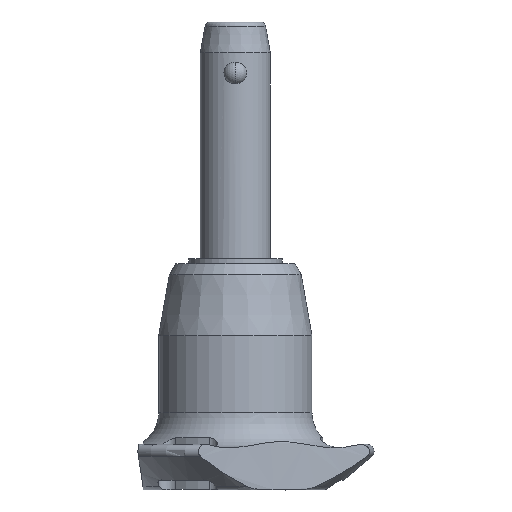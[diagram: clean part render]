
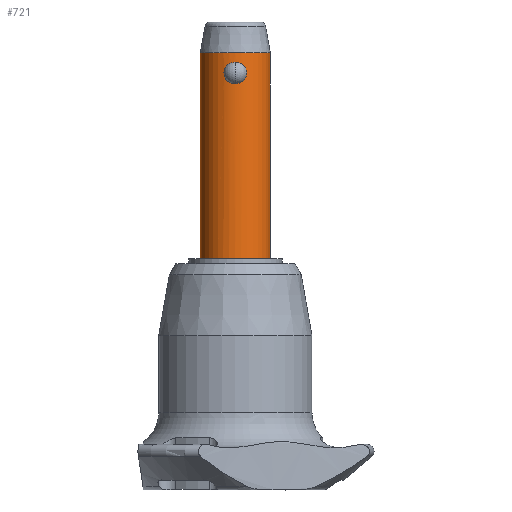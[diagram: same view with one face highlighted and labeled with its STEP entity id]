
A CAD part, front view. The second image highlights one B-rep face of the part: STEP entity #721.
In plain terms, the highlighted cylindrical face has radius 6 mm (diameter 12 mm), a partial arc.
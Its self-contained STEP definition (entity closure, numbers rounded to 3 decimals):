
#10 = CARTESIAN_POINT ( 'NONE',  ( 6., 0., -30. ) ) ;
#18 = DIRECTION ( 'NONE',  ( 0., 0., 1. ) ) ;
#26 = EDGE_CURVE ( 'NONE', #1327, #1147, #795, .T. ) ;
#33 = VECTOR ( 'NONE', #1652, 1000. ) ;
#39 = CARTESIAN_POINT ( 'NONE',  ( -0.854, -5.94, 3.53 ) ) ;
#72 = CARTESIAN_POINT ( 'NONE',  ( 1.7, -5.755, 2.812 ) ) ;
#81 = CARTESIAN_POINT ( 'NONE',  ( -1.852, -5.707, 1.239 ) ) ;
#131 = LINE ( 'NONE', #1015, #33 ) ;
#141 = CARTESIAN_POINT ( 'NONE',  ( -6., 0., -30. ) ) ;
#228 = CARTESIAN_POINT ( 'NONE',  ( -0.967, -5.923, 0.233 ) ) ;
#238 = CARTESIAN_POINT ( 'NONE',  ( 0., -6., 3.708 ) ) ;
#251 = CARTESIAN_POINT ( 'NONE',  ( -0.252, -5.996, 3.697 ) ) ;
#262 = CARTESIAN_POINT ( 'NONE',  ( 0.25, -6., 0. ) ) ;
#287 = CARTESIAN_POINT ( 'NONE',  ( 0.498, -5.981, 3.652 ) ) ;
#294 = CARTESIAN_POINT ( 'NONE',  ( -1.9, -5.692, 2.359 ) ) ;
#308 = CARTESIAN_POINT ( 'NONE',  ( -1.541, -5.799, 3.011 ) ) ;
#317 = CARTESIAN_POINT ( 'NONE',  ( 0., -6., 0. ) ) ;
#414 = CYLINDRICAL_SURFACE ( 'NONE', #1824, 6. ) ;
#487 = CARTESIAN_POINT ( 'NONE',  ( 1.277, -5.863, 0.437 ) ) ;
#499 = CARTESIAN_POINT ( 'NONE',  ( 1.89, -5.695, 2.349 ) ) ;
#705 = EDGE_CURVE ( 'NONE', #1835, #2433, #1633, .T. ) ;
#711 = CARTESIAN_POINT ( 'NONE',  ( 1.178, -5.884, 0.362 ) ) ;
#721 = ADVANCED_FACE ( 'NONE', ( #1507, #2402 ), #414, .T. ) ;
#795 = B_SPLINE_CURVE_WITH_KNOTS ( 'NONE', 3,
 ( #238, #1330, #251, #1109, #2019, #39, #1575, #2045, #2290, #1377, #308, #1618, #1604, #294, #2516, #1390, #1157, #2059, #81, #1122, #1804, #2693, #1580, #228, #2845, #2194, #2863, #2653 ),
 .UNSPECIFIED., .F., .F.,
 ( 4, 2, 2, 2, 2, 2, 2, 2, 2, 2, 2, 2, 2, 4 ),
 ( 0., 0., 0.001, 0.001, 0.002, 0.002, 0.002, 0.003, 0.003, 0.004, 0.005, 0.005, 0.005, 0.006 ),
 .UNSPECIFIED. ) ;
#834 = DIRECTION ( 'NONE',  ( 1., 0., 0. ) ) ;
#887 = DIRECTION ( 'NONE',  ( 0., 0., -1. ) ) ;
#902 = CARTESIAN_POINT ( 'NONE',  ( 1.955, -5.673, 1.979 ) ) ;
#913 = CARTESIAN_POINT ( 'NONE',  ( 1.178, -5.884, 3.346 ) ) ;
#924 = CARTESIAN_POINT ( 'NONE',  ( 1.901, -5.692, 1.35 ) ) ;
#942 = CARTESIAN_POINT ( 'NONE',  ( 1.279, -5.863, 3.27 ) ) ;
#981 = EDGE_CURVE ( 'NONE', #2433, #1909, #1895, .T. ) ;
#1015 = CARTESIAN_POINT ( 'NONE',  ( 6., 0., -30. ) ) ;
#1028 = EDGE_CURVE ( 'NONE', #1431, #1909, #2615, .T. ) ;
#1060 = AXIS2_PLACEMENT_3D ( 'NONE', #2251, #2206, #2422 ) ;
#1106 = CARTESIAN_POINT ( 'NONE',  ( 0., 0., -30. ) ) ;
#1109 = CARTESIAN_POINT ( 'NONE',  ( -0.498, -5.981, 3.652 ) ) ;
#1122 = CARTESIAN_POINT ( 'NONE',  ( -1.7, -5.755, 0.895 ) ) ;
#1125 = CARTESIAN_POINT ( 'NONE',  ( 1.851, -5.708, 2.47 ) ) ;
#1145 = ORIENTED_EDGE ( 'NONE', *, *, #705, .F. ) ;
#1147 = VERTEX_POINT ( 'NONE', #1781 ) ;
#1157 = CARTESIAN_POINT ( 'NONE',  ( -1.942, -5.677, 1.604 ) ) ;
#1179 = ORIENTED_EDGE ( 'NONE', *, *, #1028, .T. ) ;
#1181 = CARTESIAN_POINT ( 'NONE',  ( 0.62, -5.969, 3.619 ) ) ;
#1215 = B_SPLINE_CURVE_WITH_KNOTS ( 'NONE', 3,
 ( #317, #262, #2479, #2710, #2683, #711, #487, #1623, #2259, #1399, #2496, #924, #1568, #902, #1357, #499, #1125, #72, #2027, #942, #913, #1805, #1371, #1181, #287, #2694, #2037, #1818 ),
 .UNSPECIFIED., .F., .F.,
 ( 4, 2, 2, 2, 2, 2, 2, 2, 2, 2, 2, 2, 2, 4 ),
 ( 0.006, 0.007, 0.007, 0.008, 0.008, 0.008, 0.009, 0.009, 0.01, 0.011, 0.011, 0.011, 0.012, 0.012 ),
 .UNSPECIFIED. ) ;
#1282 = CARTESIAN_POINT ( 'NONE',  ( 0., 0., -30. ) ) ;
#1327 = VERTEX_POINT ( 'NONE', #1627 ) ;
#1330 = CARTESIAN_POINT ( 'NONE',  ( -0.127, -6., 3.708 ) ) ;
#1357 = CARTESIAN_POINT ( 'NONE',  ( 1.942, -5.677, 2.103 ) ) ;
#1371 = CARTESIAN_POINT ( 'NONE',  ( 0.855, -5.94, 3.53 ) ) ;
#1377 = CARTESIAN_POINT ( 'NONE',  ( -1.46, -5.821, 3.103 ) ) ;
#1390 = CARTESIAN_POINT ( 'NONE',  ( -1.955, -5.673, 1.731 ) ) ;
#1399 = CARTESIAN_POINT ( 'NONE',  ( 1.687, -5.758, 0.899 ) ) ;
#1431 = VERTEX_POINT ( 'NONE', #1470 ) ;
#1470 = CARTESIAN_POINT ( 'NONE',  ( 6., 0., 5.3 ) ) ;
#1507 = FACE_OUTER_BOUND ( 'NONE', #2039, .T. ) ;
#1568 = CARTESIAN_POINT ( 'NONE',  ( 1.955, -5.673, 1.6 ) ) ;
#1575 = CARTESIAN_POINT ( 'NONE',  ( -0.966, -5.923, 3.476 ) ) ;
#1580 = CARTESIAN_POINT ( 'NONE',  ( -1.179, -5.884, 0.363 ) ) ;
#1604 = CARTESIAN_POINT ( 'NONE',  ( -1.75, -5.74, 2.7 ) ) ;
#1618 = CARTESIAN_POINT ( 'NONE',  ( -1.687, -5.759, 2.809 ) ) ;
#1623 = CARTESIAN_POINT ( 'NONE',  ( 1.459, -5.821, 0.604 ) ) ;
#1624 = EDGE_CURVE ( 'NONE', #1147, #1327, #1215, .T. ) ;
#1625 = ORIENTED_EDGE ( 'NONE', *, *, #1697, .T. ) ;
#1627 = CARTESIAN_POINT ( 'NONE',  ( 0., -6., 3.708 ) ) ;
#1633 = CIRCLE ( 'NONE', #2141, 6. ) ;
#1652 = DIRECTION ( 'NONE',  ( 0., 0., 1. ) ) ;
#1697 = EDGE_CURVE ( 'NONE', #1835, #1431, #131, .T. ) ;
#1781 = CARTESIAN_POINT ( 'NONE',  ( 0., -6., 0. ) ) ;
#1804 = CARTESIAN_POINT ( 'NONE',  ( -1.551, -5.799, 0.69 ) ) ;
#1805 = CARTESIAN_POINT ( 'NONE',  ( 0.966, -5.923, 3.476 ) ) ;
#1818 = CARTESIAN_POINT ( 'NONE',  ( 0., -6., 3.708 ) ) ;
#1824 = AXIS2_PLACEMENT_3D ( 'NONE', #1282, #18, #2675 ) ;
#1835 = VERTEX_POINT ( 'NONE', #10 ) ;
#1895 = LINE ( 'NONE', #141, #2371 ) ;
#1909 = VERTEX_POINT ( 'NONE', #1929 ) ;
#1929 = CARTESIAN_POINT ( 'NONE',  ( -6., 0., 5.3 ) ) ;
#2019 = CARTESIAN_POINT ( 'NONE',  ( -0.62, -5.969, 3.619 ) ) ;
#2027 = CARTESIAN_POINT ( 'NONE',  ( 1.551, -5.799, 3.018 ) ) ;
#2037 = CARTESIAN_POINT ( 'NONE',  ( 0.127, -6., 3.708 ) ) ;
#2039 = EDGE_LOOP ( 'NONE', ( #2864, #1145, #1625, #1179 ) ) ;
#2045 = CARTESIAN_POINT ( 'NONE',  ( -1.177, -5.884, 3.347 ) ) ;
#2059 = CARTESIAN_POINT ( 'NONE',  ( -1.89, -5.695, 1.358 ) ) ;
#2141 = AXIS2_PLACEMENT_3D ( 'NONE', #1106, #887, #834 ) ;
#2182 = CARTESIAN_POINT ( 'NONE',  ( -6., 0., -30. ) ) ;
#2186 = ORIENTED_EDGE ( 'NONE', *, *, #26, .F. ) ;
#2194 = CARTESIAN_POINT ( 'NONE',  ( -0.504, -5.983, 0.045 ) ) ;
#2206 = DIRECTION ( 'NONE',  ( 0., 0., -1. ) ) ;
#2251 = CARTESIAN_POINT ( 'NONE',  ( 0., 0., 5.3 ) ) ;
#2259 = CARTESIAN_POINT ( 'NONE',  ( 1.543, -5.799, 0.699 ) ) ;
#2290 = CARTESIAN_POINT ( 'NONE',  ( -1.278, -5.863, 3.271 ) ) ;
#2371 = VECTOR ( 'NONE', #2781, 1000. ) ;
#2402 = FACE_BOUND ( 'NONE', #2595, .T. ) ;
#2422 = DIRECTION ( 'NONE',  ( 1., 0., 0. ) ) ;
#2433 = VERTEX_POINT ( 'NONE', #2182 ) ;
#2479 = CARTESIAN_POINT ( 'NONE',  ( 0.503, -5.983, 0.045 ) ) ;
#2496 = CARTESIAN_POINT ( 'NONE',  ( 1.749, -5.74, 1.007 ) ) ;
#2516 = CARTESIAN_POINT ( 'NONE',  ( -1.955, -5.673, 2.107 ) ) ;
#2595 = EDGE_LOOP ( 'NONE', ( #2186, #2707 ) ) ;
#2615 = CIRCLE ( 'NONE', #1060, 6. ) ;
#2653 = CARTESIAN_POINT ( 'NONE',  ( 0., -6., 0. ) ) ;
#2675 = DIRECTION ( 'NONE',  ( 1., 0., 0. ) ) ;
#2683 = CARTESIAN_POINT ( 'NONE',  ( 0.966, -5.923, 0.232 ) ) ;
#2693 = CARTESIAN_POINT ( 'NONE',  ( -1.278, -5.863, 0.437 ) ) ;
#2694 = CARTESIAN_POINT ( 'NONE',  ( 0.252, -5.996, 3.697 ) ) ;
#2707 = ORIENTED_EDGE ( 'NONE', *, *, #1624, .F. ) ;
#2710 = CARTESIAN_POINT ( 'NONE',  ( 0.853, -5.94, 0.177 ) ) ;
#2781 = DIRECTION ( 'NONE',  ( 0., 0., 1. ) ) ;
#2845 = CARTESIAN_POINT ( 'NONE',  ( -0.853, -5.94, 0.177 ) ) ;
#2863 = CARTESIAN_POINT ( 'NONE',  ( -0.25, -6., 0. ) ) ;
#2864 = ORIENTED_EDGE ( 'NONE', *, *, #981, .F. ) ;
